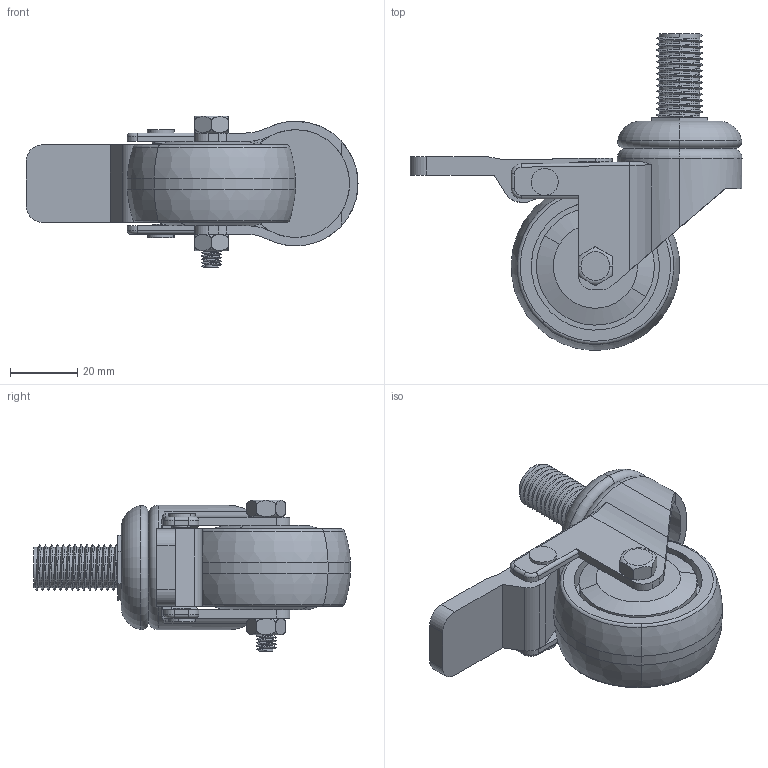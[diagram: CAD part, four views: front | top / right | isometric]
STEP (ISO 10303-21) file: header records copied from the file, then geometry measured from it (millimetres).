
FILE_DESCRIPTION (( 'STEP AP203' ), '1' );
FILE_NAME ('2PR3B.STEP', '2018-03-14T10:14:05', ( '' ), ( '' ), 'SwSTEP 2.0', 'SolidWorks 2017', '' );
FILE_SCHEMA (( 'CONFIG_CONTROL_DESIGN' ));
Length unit declared in the file: millimetre
Products named in the file (9): 螺帽M6; 輪蓋PR-2; 剎車輕型PR; 鉚釘M3; 牙式底盤輕型PR; 2PR3B; 活動架PR-2B; 輪PR-2; 六角螺絲M6X40
Assembly tree (10 placements, depth 2):
  2PR3B
    活動架PR-2B
    輪PR-2
    六角螺絲M6X40
    螺帽M6
    輪蓋PR-2  x2
    剎車輕型PR
    鉚釘M3  x2
    牙式底盤輕型PR
Bounding box: 98.5 x 93.97 x 45 mm (x, y, z)
Volume: 63941.1 mm3; surface area: 35193.2 mm2
Topology: 10 solids, 10 shells, 321 faces, 822 edges, 536 vertices
Faces by surface type: cylinder 194, plane 87, torus 26, cone 8, bspline 6
Entity records: 16833 total; most frequent: CARTESIAN_POINT 9169, ORIENTED_EDGE 1544, DIRECTION 1285, EDGE_CURVE 772, VERTEX_POINT 504, AXIS2_PLACEMENT_3D 491, EDGE_LOOP 322, LINE 303
